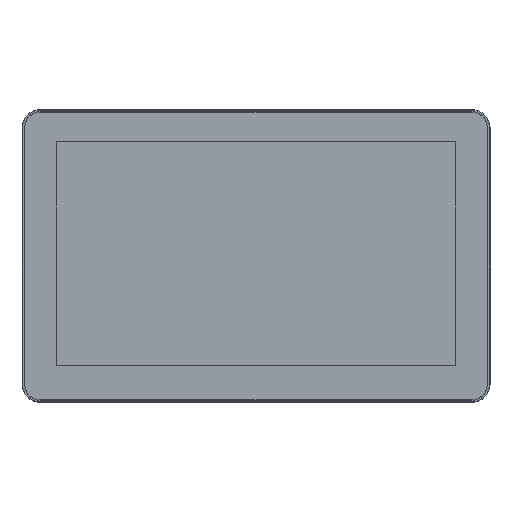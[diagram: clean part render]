
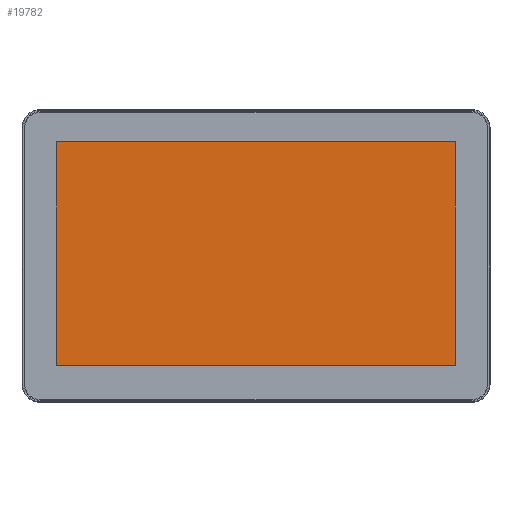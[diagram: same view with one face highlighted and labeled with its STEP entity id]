
A CAD part, top view. The second image highlights one B-rep face of the part: STEP entity #19782.
In plain terms, the highlighted planar face has unit normal (0, 0, 1).
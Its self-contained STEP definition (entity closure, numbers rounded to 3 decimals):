
#1336=FACE_OUTER_BOUND('',#2395,.T.);
#2395=EDGE_LOOP('',(#12415,#12416,#12417,#12418));
#3705=LINE('',#28182,#5733);
#3706=LINE('',#28184,#5734);
#3707=LINE('',#28186,#5735);
#3708=LINE('',#28187,#5736);
#5733=VECTOR('',#22638,1000.);
#5734=VECTOR('',#22639,1000.);
#5735=VECTOR('',#22640,1000.);
#5736=VECTOR('',#22641,1000.);
#7761=VERTEX_POINT('',#28180);
#7762=VERTEX_POINT('',#28181);
#7763=VERTEX_POINT('',#28183);
#7764=VERTEX_POINT('',#28185);
#9637=EDGE_CURVE('',#7761,#7762,#3705,.T.);
#9638=EDGE_CURVE('',#7763,#7761,#3706,.T.);
#9639=EDGE_CURVE('',#7764,#7763,#3707,.T.);
#9640=EDGE_CURVE('',#7762,#7764,#3708,.T.);
#12415=ORIENTED_EDGE('',*,*,#9637,.F.);
#12416=ORIENTED_EDGE('',*,*,#9638,.F.);
#12417=ORIENTED_EDGE('',*,*,#9639,.F.);
#12418=ORIENTED_EDGE('',*,*,#9640,.F.);
#17907=PLANE('',#20877);
#19782=ADVANCED_FACE('',(#1336),#17907,.T.);
#20877=AXIS2_PLACEMENT_3D('',#28179,#22636,#22637);
#22636=DIRECTION('center_axis',(0.,0.,
1.));
#22637=DIRECTION('ref_axis',(1.,0.,0.));
#22638=DIRECTION('',(0.,-1.,0.));
#22639=DIRECTION('',(1.,0.,0.));
#22640=DIRECTION('',(0.,1.,0.));
#22641=DIRECTION('',(-1.,0.,0.));
#28179=CARTESIAN_POINT('Origin',(-178.641,-98.277,0.));
#28180=CARTESIAN_POINT('',(171.77,98.41,0.));
#28181=CARTESIAN_POINT('',(171.77,-94.42,0.));
#28182=CARTESIAN_POINT('',(171.77,-98.277,0.));
#28183=CARTESIAN_POINT('',(-171.77,98.41,0.));
#28184=CARTESIAN_POINT('',(0.,98.41,0.));
#28185=CARTESIAN_POINT('',(-171.77,-94.42,0.));
#28186=CARTESIAN_POINT('',(-171.77,1.995,0.));
#28187=CARTESIAN_POINT('',(-178.641,-94.42,0.));
